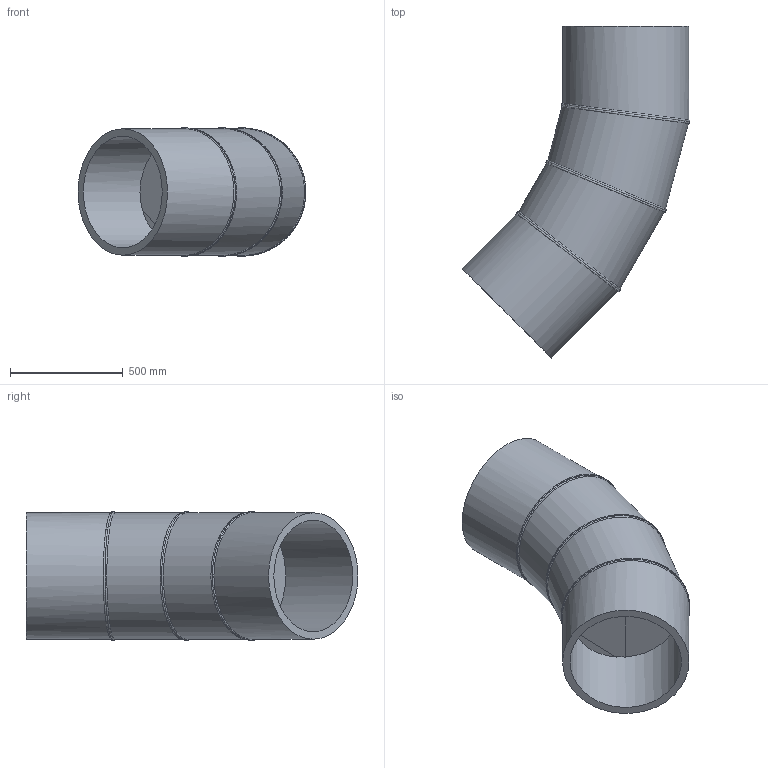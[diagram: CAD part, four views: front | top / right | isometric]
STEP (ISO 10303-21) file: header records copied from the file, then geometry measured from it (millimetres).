
FILE_DESCRIPTION(/* description */ ('Unknown'),/* implementation_level */ '2;1');
FILE_NAME(/* name */ 'Curva 45° a settore DE560 SDR17',/* time_stamp */ '2022-07-26T09:47:56+02:00',/* author */ ('Unknown'),/* organization */ ('Unknown'),/* preprocessor_version */ 'ST-DEVELOPER v18.102',/* originating_system */ 'Solid Edge',/* authorisation */ 'Unknown');
FILE_SCHEMA (('AUTOMOTIVE_DESIGN {1 0 10303 214 3 1 1}'));
Length unit declared in the file: millimetre
Products named in the file (3): Curva 45° a settore DE560 SDR17; Tubo x Gomito 45° DE560 SDR17 - 1; Tubo x Gomito 45° DE560 SDR17 - 2
Assembly tree (4 placements, depth 2):
  Curva 45° a settore DE560 SDR17
    Tubo x Gomito 45° DE560 SDR17 - 1  x2
    Tubo x Gomito 45° DE560 SDR17 - 2  x2
Bounding box: 1008.77 x 1469.77 x 567.99 mm (x, y, z)
Volume: 79454658.9 mm3; surface area: 5262300.7 mm2
Topology: 4 solids, 4 shells, 34 faces, 74 edges, 48 vertices
Faces by surface type: cylinder 20, plane 8, bspline 6
Full cylindrical faces by diameter (mm): 493.6 x4, 560 x4
Entity records: 3476 total; most frequent: CARTESIAN_POINT 3074, DIRECTION 72, ORIENTED_EDGE 52, AXIS2_PLACEMENT_3D 36, EDGE_LOOP 28, FACE_BOUND 28, EDGE_CURVE 26, VERTEX_POINT 20
